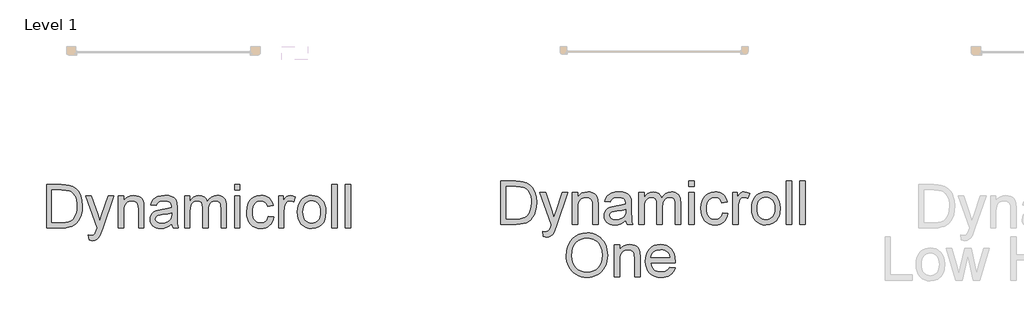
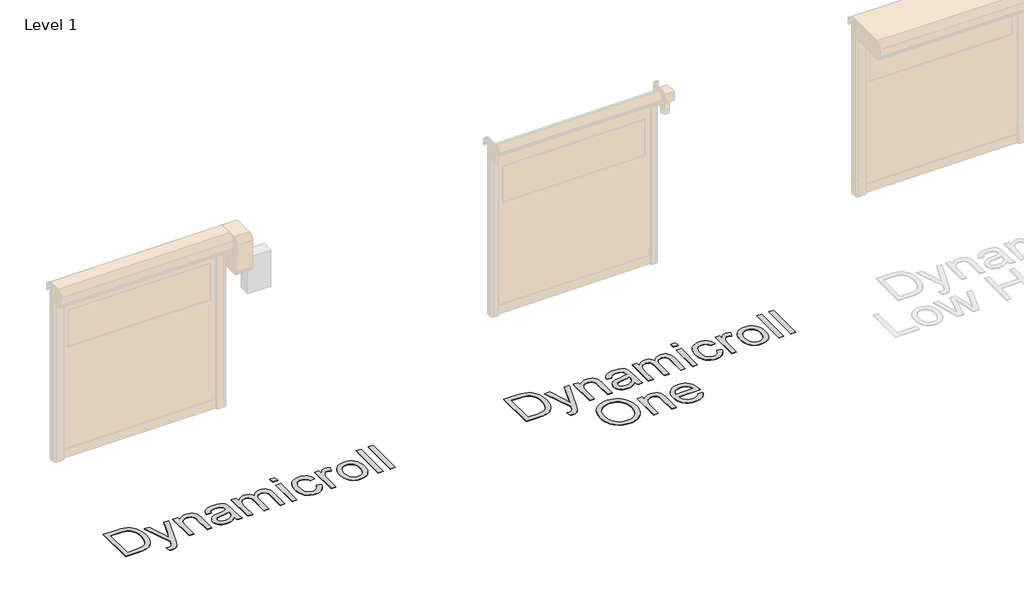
# One storey, part 13 of 18: 2 proxies.
"""IFC4 building model written with IfcOpenShell, lengths in millimetres."""

import ifcopenshell
import ifcopenshell.guid

model = None  # the IFC model being written
_history = None  # IfcOwnerHistory: only IFC2X3 demands one
_inside = {}  # id of a spatial element -> (the spatial element, [elements in it])
_under = {}  # id of a project, library or spatial element -> (it, [spatial elements below it])
_declared = {}  # id of a project -> (the project, [libraries it declares])
_typed = {}  # id of a type object -> (the type object, [elements of that type])
_made_of = {}  # id of a material, layer set ... -> (it, [elements and type objects made of it])


def new_model(schema):
    """Start an empty IFC model of exactly this schema.

    Asked for "IFC4X3", IfcOpenShell would pick the latest addendum, in which some entities
    have other attributes; the version numbers below select the first issue.
    IFC2X3 requires an IfcOwnerHistory on every rooted entity: one is made here for all.
    """
    global model, _history
    if schema == "IFC4X3":
        model = ifcopenshell.file(schema_version=(4, 3, 0, 0))
    else:
        model = ifcopenshell.file(schema=schema)
    _inside.clear()
    _under.clear()
    _declared.clear()
    _typed.clear()
    _made_of.clear()
    _history = None
    if model.schema == "IFC2X3":
        org = make("IfcOrganization", Name="unknown")
        user = make(
            "IfcPersonAndOrganization",
            ThePerson=make("IfcPerson", FamilyName="unknown"),
            TheOrganization=org,
        )
        app = make(
            "IfcApplication",
            ApplicationDeveloper=org,
            Version="unknown",
            ApplicationFullName="unknown",
            ApplicationIdentifier="unknown",
        )
        _history = make(
            "IfcOwnerHistory",
            OwningUser=user,
            OwningApplication=app,
            ChangeAction="ADDED",
            CreationDate=0,
        )
    return model


def make(cls, **values):
    """One entity of the class cls with the attributes given. An attribute that is None is left unset."""
    return model.create_entity(
        cls, **{name: value for name, value in values.items() if value is not None}
    )


def rooted(cls, **values):
    """An entity with a GlobalId (a new one), such as an element, a storey or a relation."""
    return make(cls, GlobalId=ifcopenshell.guid.new(), OwnerHistory=_history, **values)


def si_unit(unit_type, name, prefix=None):
    """IfcSIUnit, for example si_unit("LENGTHUNIT", "METRE", prefix="MILLI")."""
    return make("IfcSIUnit", UnitType=unit_type, Prefix=prefix, Name=name)


def assignment(units):
    """IfcUnitAssignment: the units of a project."""
    return None if units is None else make("IfcUnitAssignment", Units=units)


def point(xyz):
    """IfcCartesianPoint."""
    return None if xyz is None else make("IfcCartesianPoint", Coordinates=xyz)


def direction(xyz):
    """IfcDirection."""
    return None if xyz is None else make("IfcDirection", DirectionRatios=xyz)


def frame(location, z_axis=None, x_axis=None):
    """IfcAxis2Placement3D, a coordinate frame: its origin and axes. An axis left out is left unset."""
    return make(
        "IfcAxis2Placement3D",
        Location=point(location),
        Axis=direction(z_axis),
        RefDirection=direction(x_axis),
    )


def origin():
    """The frame at (0, 0, 0) with its axes left unset."""
    return frame((0.0, 0.0, 0.0))


def origin_with_axes():
    """The frame at (0, 0, 0) with the z axis (0, 0, 1) and the x axis (1, 0, 0) written out."""
    return frame((0.0, 0.0, 0.0), z_axis=(0.0, 0.0, 1.0), x_axis=(1.0, 0.0, 0.0))


def place(relative_to, where):
    """IfcLocalPlacement: puts the frame where relative to a parent placement (None: the world)."""
    return make(
        "IfcLocalPlacement", PlacementRelTo=relative_to, RelativePlacement=where
    )


def context(
    kind, dimensions, precision=None, world=None, true_north=None, identifier=None
):
    """IfcGeometricRepresentationContext, for example the 3D "Model" context."""
    return make(
        "IfcGeometricRepresentationContext",
        ContextIdentifier=identifier,
        ContextType=kind,
        CoordinateSpaceDimension=dimensions,
        Precision=precision,
        WorldCoordinateSystem=world,
        TrueNorth=true_north,
    )


def project(units=None, contexts=None):
    """IfcProject with its units and contexts."""
    return rooted(
        "IfcProject",
        Name="project",
        RepresentationContexts=contexts,
        UnitsInContext=assignment(units),
    )


def spatial(cls, under=None, at=None, **own):
    """A site, building, storey or space (cls), placed at a placement, below another one or the project."""
    s = rooted(cls, ObjectPlacement=at, **own)
    if under is not None:
        _under.setdefault(under.id(), (under, []))[1].append(s)
    return s


def polyline(points):
    """IfcPolyline through the points."""
    return make("IfcPolyline", Points=[point(p) for p in points])


def outline(outer, holes=None, kind="AREA"):
    """IfcArbitraryClosedProfileDef: a profile drawn as a closed curve; with holes, ...WithVoids."""
    if holes is None:
        return make("IfcArbitraryClosedProfileDef", ProfileType=kind, OuterCurve=outer)
    return make(
        "IfcArbitraryProfileDefWithVoids",
        ProfileType=kind,
        OuterCurve=outer,
        InnerCurves=holes,
    )


def extrude(swept, where, along, depth):
    """IfcExtrudedAreaSolid: the profile swept, set in the frame where, extruded along a direction by depth."""
    return make(
        "IfcExtrudedAreaSolid",
        SweptArea=swept,
        Position=where,
        ExtrudedDirection=direction(along),
        Depth=depth,
    )


def shape(context_of_items, identifier, shape_type, items):
    """IfcShapeRepresentation: the items that make up one representation, for example the "Body"."""
    return make(
        "IfcShapeRepresentation",
        ContextOfItems=context_of_items,
        RepresentationIdentifier=identifier,
        RepresentationType=shape_type,
        Items=items,
    )


def made_of(thing, what):
    """Note that an element or type object is made of a material, layer set ...; save() writes the relation."""
    if what is not None:
        _made_of.setdefault(what.id(), (what, []))[1].append(thing)
    return thing


def element(
    cls,
    number,
    at=None,
    inside=None,
    cuts=None,
    type_object=None,
    material=None,
    context=None,
    identifier="Body",
    shape_type=None,
    held_by="IfcProductDefinitionShape",
    body=None,
    shapes=None,
    **own,
):
    """One element of the class cls, such as IfcWall. Its Tag is "e" and its number.

    at: its placement. inside: the storey or other place that contains it. cuts: it is an
    opening in that element (IfcRelVoidsElement). A single representation is given by context,
    identifier, shape_type and body (its items); several are given by shapes. held_by: the class
    of the entity that holds the representations. save() writes the other relations.
    """
    e = rooted(cls, Tag="e%d" % number, ObjectPlacement=at, **own)
    if body is not None:
        shapes = [shape(context, identifier, shape_type, body)]
    if shapes is not None:
        e.Representation = make(held_by, Representations=shapes)
    if inside is not None:
        _inside.setdefault(inside.id(), (inside, []))[1].append(e)
    if cuts is not None:
        rooted(
            "IfcRelVoidsElement", RelatingBuildingElement=cuts, RelatedOpeningElement=e
        )
    if type_object is not None:
        _typed.setdefault(type_object.id(), (type_object, []))[1].append(e)
    return made_of(e, material)


def aggregate(whole, parts):
    """IfcRelAggregates: a whole, such as a stair, and the parts it consists of."""
    return rooted("IfcRelAggregates", RelatingObject=whole, RelatedObjects=parts)


def save(model, path):
    """Write the relations noted so far, then the file.

    IfcRelAggregates (storeys below a building ...), IfcRelContainedInSpatialStructure (elements
    in a storey), IfcRelDefinesByType, IfcRelAssociatesMaterial and IfcRelDeclares: one each for
    every whole, place, type object, material and project.
    """
    for whole, parts in _under.values():
        aggregate(whole, parts)
    for where, things in _inside.values():
        rooted(
            "IfcRelContainedInSpatialStructure",
            RelatedElements=things,
            RelatingStructure=where,
        )
    for kind, things in _typed.values():
        rooted("IfcRelDefinesByType", RelatedObjects=things, RelatingType=kind)
    for what, things in _made_of.values():
        rooted("IfcRelAssociatesMaterial", RelatedObjects=things, RelatingMaterial=what)
    for by, libraries in _declared.values():
        rooted("IfcRelDeclares", RelatingContext=by, RelatedDefinitions=libraries)
    model.write(path)


model = new_model("IFC4")

# Units and contexts
model_context = context("Model", 3, world=origin())
ifc_project = project(units=[si_unit("LENGTHUNIT", "METRE", prefix="MILLI")], contexts=[model_context])

# Site, building, storey
site = spatial("IfcSite", under=ifc_project)
building = spatial("IfcBuilding", under=site)
storey = spatial("IfcBuildingStorey", under=building, Name="Level 1", Elevation=0.0)

# Proxies
placement = place(None, origin())
element("IfcBuildingElementProxy", 1, Name="500mm", ObjectType="500mm", at=placement, inside=storey, context=model_context, shape_type="SweptSolid", body=[
    extrude(outline(polyline([(5402.5904997, 42632.3594673), (5402.5904997, 43134.6410181), (5575.8629195, 43134.6410181), (5627.6423103, 43132.832265), (5665.5034989, 43127.4060055), (5705.5413228, 43113.4571465), (5739.3251526, 43091.4761973), (5757.9415144, 43073.5112932), (5774.0593444, 43053.2164698), (5787.6786424, 43030.5917271), (5798.7994085, 43005.6370651), (5813.6066588, 42949.6576882), (5818.5424089, 42886.198044), (5815.2008142, 42832.2880033), (5805.1760298, 42784.8465543), (5789.908927, 42744.456177), (5770.8403769, 42711.699351), (5748.8900845, 42685.8403124), (5724.9777548, 42666.1432972), (5697.5245609, 42651.5353163), (5664.951676, 42640.9433806), (5627.1977862, 42634.5054457), (5584.201578, 42632.3594673), (5402.5904997, 42632.3594673)]), holes=[polyline([(5465.3756936, 42695.1446612), (5576.4760561, 42695.1446612), (5622.4306487, 42697.4132668), (5657.2874677, 42704.2190837), (5683.5910304, 42715.1635731), (5703.8858538, 42729.8481961), (5725.6981904, 42757.0254785), (5742.0842676, 42792.2041943), (5752.3389782, 42835.5376276), (5755.7572151, 42887.1790627), (5754.0825856, 42923.630037), (5749.0586971, 42955.6051138), (5740.6855496, 42983.1042929), (5728.9631431, 43006.1275744), (5714.8418394, 43025.1961245), (5699.2720004, 43040.8311093), (5682.253626, 43053.0325288), (5663.7867163, 43061.800383), (5627.6729671, 43069.341964), (5574.7592735, 43071.8558243), (5465.3756936, 43071.8558243), (5465.3756936, 42695.1446612)])]), origin_with_axes(), (0.0, 0.0, 1.0), 5.0),
    extrude(outline(polyline([(5897.0239012, 42491.0927812), (5889.175752, 42551.5480557), (5921.0588583, 42546.0298258), (5937.8281459, 42547.7619369), (5950.8572999, 42552.9582701), (5961.0047116, 42561.2509434), (5969.1287723, 42572.2720748), (5986.2965987, 42618.5025789), (5991.201692, 42633.708368), (5857.7831551, 43001.2224812), (5924.0019142, 43001.2224812), (5994.7578846, 42796.4348372), (6019.4059783, 42714.5197796), (6044.054072, 42786.8699053), (6116.7720797, 43001.2224812), (6182.5003295, 43001.2224812), (6054.1095132, 42623.5302995), (6020.754879, 42541.6152419), (6003.679023, 42515.4649634), (5984.3345614, 42497.3467751), (5961.8631029, 42486.7701678), (5935.4062561, 42483.244632), (5917.2267541, 42485.2066693), (5897.0239012, 42491.0927812)])), origin_with_axes(), (0.0, 0.0, 1.0), 5.0),
    extrude(outline(polyline([(6234.4943182, 42632.3594673), (6234.4943182, 43001.2224812), (6297.279512, 43001.2224812), (6297.279512, 42949.7190019), (6319.0918486, 42975.6853393), (6345.2881124, 42994.2327233), (6375.8683032, 43005.3611536), (6410.8324212, 43009.0706304), (6441.780494, 43006.0815892), (6470.1227361, 42997.1144656), (6493.7591543, 42983.2882339), (6510.5897555, 42965.7218686), (6522.0094258, 42944.461355), (6529.413051, 42919.5526782), (6532.7239889, 42858.852149), (6532.7239889, 42632.3594673), (6469.9387951, 42632.3594673), (6469.9387951, 42850.3908632), (6468.1300419, 42882.8564492), (6462.7037825, 42905.9410444), (6452.6943265, 42922.4804058), (6437.1359838, 42935.3102904), (6417.193714, 42943.54165), (6394.0324767, 42946.2854366), (6374.9677588, 42944.7449307), (6357.2596056, 42940.1234131), (6340.9080174, 42932.4208839), (6325.912994, 42921.6373429), (6313.3858456, 42906.5465169), (6304.4378825, 42885.9221325), (6299.0691046, 42859.7641898), (6297.279512, 42828.0726888), (6297.279512, 42632.3594673), (6234.4943182, 42632.3594673)])), origin_with_axes(), (0.0, 0.0, 1.0), 5.0),
    extrude(outline(polyline([(6854.4981074, 42679.4483627), (6824.5003963, 42653.7272799), (6793.6136372, 42636.8966786), (6761.1327227, 42627.6076582), (6726.3525457, 42624.5113181), (6698.3973462, 42626.3737207), (6673.8833761, 42631.9609285), (6652.8106356, 42641.2729415), (6635.1791246, 42654.3097597), (6621.2570903, 42670.2436486), (6611.3127801, 42688.2468738), (6605.346194, 42708.3194351), (6603.357332, 42730.4613327), (6606.3617016, 42756.4889839), (6615.3748105, 42780.1254021), (6629.2776842, 42800.3589118), (6646.9513484, 42816.1778376), (6667.7213527, 42828.1340024), (6690.9132468, 42836.7792293), (6745.2371548, 42846.2215339), (6809.432563, 42856.1543477), (6854.1302254, 42867.8039443), (6854.4981074, 42881.7834601), (6850.1754939, 42909.8038054), (6837.2076536, 42928.1365915), (6824.1325143, 42936.0767112), (6808.2062896, 42941.7482253), (6767.8005838, 42946.2854366), (6730.3992477, 42943.2657385), (6704.279626, 42934.2066444), (6686.4680061, 42917.4526852), (6673.9906751, 42891.348392), (6611.2054812, 42899.1965412), (6622.1039853, 42933.5321941), (6638.3674352, 42960.510207), (6661.5133441, 42981.1422556), (6693.0592251, 42996.4400152), (6731.6408494, 43005.9129766), (6775.8939877, 43009.0706304), (6818.3383729, 43006.2808586), (6851.9842471, 42997.9115432), (6877.3527763, 42985.3269133), (6894.9651268, 42969.8911979), (6906.6453802, 42950.8073194), (6914.2176179, 42927.2782001), (6917.2833012, 42872.3411555), (6917.2833012, 42794.2275452), (6920.4716118, 42685.1505337), (6925.1927641, 42658.1878491), (6932.9795997, 42632.3594673), (6870.1944058, 42632.3594673), (6860.1389646, 42654.1871324), (6854.4981074, 42679.4483627)]), holes=[polyline([(6854.4981074, 42805.0187504), (6812.3143052, 42794.5647704), (6753.2079314, 42785.7662593), (6699.1905917, 42775.5881908), (6685.1344338, 42768.6290897), (6674.7264391, 42759.033501), (6668.2885041, 42747.5371887), (6666.1425258, 42734.8759167), (6670.8176929, 42716.2059054), (6684.8431939, 42700.9081458), (6707.9124607, 42690.6994204), (6739.7189249, 42687.296512), (6773.4414411, 42691.051974), (6803.2398827, 42702.3183601), (6827.397467, 42718.9190351), (6844.1974115, 42738.677364), (6851.6470219, 42759.033501), (6854.1302254, 42787.2377873), (6854.4981074, 42805.0187504)])]), origin_with_axes(), (0.0, 0.0, 1.0), 5.0),
    extrude(outline(polyline([(7003.6129427, 42632.3594673), (7003.6129427, 43001.2224812), (7066.3981366, 43001.2224812), (7066.3981366, 42940.521952), (7085.2827457, 42968.4043415), (7109.5629574, 42990.247335), (7138.4110371, 43004.3648066), (7170.9992505, 43009.0706304), (7205.9173833, 43004.2728361), (7233.9070717, 42989.879453), (7254.8150318, 42966.840843), (7268.4879793, 42936.107368), (7291.373305, 42968.0287953), (7317.4775983, 42990.8298148), (7346.800859, 43004.5104265), (7379.3430871, 43009.0706304), (7404.477858, 43007.1737389), (7426.5392814, 43001.4830643), (7445.5273573, 42991.9986066), (7461.4420857, 42978.7203658), (7474.0228836, 42961.4950578), (7483.0091677, 42940.1693984), (7488.4009382, 42914.7433876), (7490.198195, 42885.2170254), (7490.198195, 42632.3594673), (7427.4130012, 42632.3594673), (7427.4130012, 42858.2390124), (7425.9568016, 42889.5549672), (7421.5882029, 42910.6621967), (7413.4028285, 42925.1168934), (7400.4963019, 42936.47525), (7383.8956268, 42943.8328899), (7364.6278073, 42946.2854366), (7346.8353479, 42944.7142739), (7330.6140512, 42940.0007858), (7315.9639172, 42932.1449724), (7302.8849458, 42921.1468336), (7292.1282296, 42906.6844726), (7284.4448608, 42888.4359928), (7279.8348396, 42866.4013942), (7278.2981658, 42840.5806766), (7278.2981658, 42632.3594673), (7215.512972, 42632.3594673), (7215.512972, 42865.2287703), (7211.8801373, 42900.7293828), (7200.9816332, 42926.0519268), (7192.5548362, 42934.9040873), (7181.8057842, 42941.2270591), (7153.3409148, 42946.2854366), (7129.1526736, 42942.9131849), (7106.8651561, 42932.7964301), (7088.4710563, 42916.1804266), (7075.9630685, 42893.3104293), (7068.7893696, 42861.5806072), (7066.3981366, 42818.3851296), (7066.3981366, 42632.3594673), (7003.6129427, 42632.3594673)])), origin_with_axes(), (0.0, 0.0, 1.0), 5.0),
    extrude(outline(polyline([(7584.3759858, 43071.8558243), (7584.3759858, 43134.6410181), (7647.1611796, 43134.6410181), (7647.1611796, 43071.8558243), (7584.3759858, 43071.8558243)])), origin_with_axes(), (0.0, 0.0, 1.0), 5.0),
    extrude(outline(polyline([(7584.3759858, 42632.3594673), (7584.3759858, 43001.2224812), (7647.1611796, 43001.2224812), (7647.1611796, 42632.3594673), (7584.3759858, 42632.3594673)])), origin_with_axes(), (0.0, 0.0, 1.0), 5.0),
    extrude(outline(polyline([(7976.7834473, 42765.7780043), (8039.5686412, 42757.929855), (8032.7398316, 42728.3038581), (8022.0635896, 42702.0884338), (8007.539915, 42679.2835823), (7989.1688078, 42659.8893033), (7967.7243532, 42644.4114348), (7943.9806361, 42633.3558144), (7917.9376565, 42626.7224422), (7889.5954145, 42624.5113181), (7854.3822097, 42627.5961619), (7822.8095039, 42636.8506934), (7794.877297, 42652.2749124), (7770.585589, 42673.8688191), (7750.9230628, 42701.2262104), (7736.8784012, 42733.9408833), (7728.4516043, 42772.0128377), (7725.6426719, 42815.4420736), (7730.4404663, 42871.3141516), (7744.8338494, 42919.7366192), (7755.6863682, 42940.6867325), (7769.0527474, 42958.8394096), (7784.9329868, 42974.1946508), (7803.3270866, 42986.752456), (7844.3306006, 43003.4910868), (7888.7370231, 43009.0706304), (7916.592588, 43007.1545783), (7941.7886725, 43001.4064222), (7964.3252768, 42991.8261619), (7984.2024009, 42978.4137975), (8001.0828195, 42961.4758973), (8014.6293076, 42941.3190296), (8024.841865, 42917.9431945), (8031.7204919, 42891.348392), (7968.9352981, 42883.5002427), (7957.5462846, 42910.8921229), (7939.8113068, 42930.5278244), (7916.7113832, 42942.3460335), (7889.2275325, 42946.2854366), (7867.8942088, 42944.3463919), (7848.6532141, 42938.5292578), (7831.5045482, 42928.8340344), (7816.4482111, 42915.2607216), (7804.18931, 42897.495087), (7795.4329521, 42875.2228978), (7790.1791374, 42848.4441543), (7788.4278658, 42817.1588563), (7790.1408163, 42785.4022094), (7795.2796679, 42758.3130654), (7803.8444206, 42735.8914243), (7815.8350744, 42718.1372859), (7830.5925074, 42704.6444473), (7847.4575976, 42695.0067054), (7866.4303451, 42689.2240603), (7887.5107498, 42687.296512), (7920.0223211, 42692.1096347), (7946.6784374, 42706.549003), (7957.4581463, 42717.4704998), (7966.0688842, 42730.9824989), (7976.7834473, 42765.7780043)])), origin_with_axes(), (0.0, 0.0, 1.0), 5.0),
    extrude(outline(polyline([(8094.5056858, 42632.3594673), (8094.5056858, 43001.2224812), (8149.4427304, 43001.2224812), (8149.4427304, 42946.6533186), (8169.7375538, 42978.2911701), (8188.4382219, 42996.9305246), (8207.2002036, 43006.0356039), (8227.678968, 43009.0706304), (8258.9489376, 43004.2268508), (8290.7094165, 42989.695512), (8269.7401428, 42933.4095667), (8247.6672231, 42943.0664691), (8225.5943034, 42946.2854366), (8206.84765, 42943.1890964), (8190.0936909, 42933.9000761), (8176.5586991, 42919.1234826), (8167.4689481, 42899.5644232), (8159.8353967, 42864.4930063), (8157.2908796, 42826.2332788), (8157.2908796, 42632.3594673), (8094.5056858, 42632.3594673)])), origin_with_axes(), (0.0, 0.0, 1.0), 5.0),
    extrude(outline(polyline([(8314.2538642, 42816.7909743), (8317.6491085, 42864.5619842), (8327.8348412, 42905.7264466), (8344.8110624, 42940.2843615), (8368.5777722, 42968.2357289), (8392.5054303, 42986.1009983), (8418.9162919, 42998.861905), (8447.8103569, 43006.5184491), (8479.1876254, 43009.0706304), (8513.8260145, 43005.962794), (8545.1458014, 42996.6392847), (8573.1469862, 42981.1001025), (8597.8295688, 42959.3452474), (8617.9749402, 42932.1104834), (8632.3644911, 42900.1315746), (8640.9982217, 42863.4085208), (8643.8761319, 42821.9413222), (8638.7870976, 42758.5123349), (8632.4258048, 42732.4770195), (8623.5199948, 42710.227823), (8612.1807988, 42691.0098208), (8598.5193476, 42674.0680885), (8582.5356413, 42659.4026261), (8564.2296799, 42647.0134335), (8523.5020774, 42630.136847), (8479.1876254, 42624.5113181), (8444.0433985, 42627.6076582), (8412.4323717, 42636.8966786), (8384.3545448, 42652.3783793), (8359.809918, 42674.0527601), (8339.8791444, 42701.5519393), (8325.6428777, 42734.5080347), (8317.1011176, 42772.9210463), (8314.2538642, 42816.7909743)]), holes=[polyline([(8377.0390581, 42816.9136016), (8378.8554754, 42786.4598702), (8384.3047275, 42760.0911618), (8393.3868142, 42737.8074763), (8406.1017357, 42719.6088139), (8421.5681079, 42705.4721818), (8438.9045469, 42695.3745874), (8458.1110528, 42689.3160308), (8479.1876254, 42687.296512), (8500.1568991, 42689.3275271), (8519.2867629, 42695.4205727), (8536.5772166, 42705.5756486), (8552.0282604, 42719.7927549), (8564.7431819, 42738.1715262), (8573.8252687, 42760.8115973), (8579.2745207, 42787.7129682), (8581.0909381, 42818.8756389), (8579.2630244, 42848.3636801), (8573.7792834, 42874.0426098), (8564.6397151, 42895.912428), (8551.8443194, 42913.9731347), (8536.3357941, 42928.1097667), (8519.0568366, 42938.2073611), (8500.0074471, 42944.2659177), (8479.1876254, 42946.2854366), (8458.1110528, 42944.2735819), (8438.9045469, 42938.2380179), (8421.5681079, 42928.1787446), (8406.1017357, 42914.095762), (8393.3868142, 42895.950749), (8384.3047275, 42873.7053846), (8378.8554754, 42847.3596688), (8377.0390581, 42816.9136016)])]), origin_with_axes(), (0.0, 0.0, 1.0), 5.0),
    extrude(outline(polyline([(8714.509475, 42632.3594673), (8714.509475, 43134.6410181), (8777.2946688, 43134.6410181), (8777.2946688, 42632.3594673), (8714.509475, 42632.3594673)])), origin_with_axes(), (0.0, 0.0, 1.0), 5.0),
    extrude(outline(polyline([(8871.4724596, 42632.3594673), (8871.4724596, 43134.6410181), (8934.2576534, 43134.6410181), (8934.2576534, 42632.3594673), (8871.4724596, 42632.3594673)])), origin_with_axes(), (0.0, 0.0, 1.0), 5.0),
    extrude(outline(polyline([(6163.8609751, 42267.0042776), (6168.0456328, 42325.9190463), (6180.5996059, 42378.0739833), (6201.5228943, 42423.4690887), (6230.8154982, 42462.1043624), (6266.7223138, 42492.9528005), (6307.4882374, 42514.9873992), (6353.113269, 42528.2081584), (6403.5974086, 42532.6150781), (6437.3889027, 42530.5457419), (6469.4789426, 42524.3377332), (6499.8675282, 42513.9910521), (6528.5546596, 42499.5056985), (6554.735595, 42481.3185324), (6577.6055923, 42459.8664136), (6597.1646517, 42435.149342), (6613.4127732, 42407.1673177), (6626.1813441, 42376.5564701), (6635.3017519, 42343.9529282), (6640.7739966, 42309.3566923), (6642.5980781, 42272.7677622), (6640.678194, 42235.695987), (6634.9185415, 42200.6322343), (6625.3191207, 42167.5765042), (6611.8799315, 42136.5287966), (6594.9190387, 42108.3091819), (6574.7545069, 42083.7377303), (6551.386336, 42062.8144418), (6524.814526, 42045.5393165), (6496.0852415, 42032.0196532), (6466.2446467, 42022.3627508), (6435.2927418, 42016.5686094), (6403.2295266, 42014.6372289), (6368.8478885, 42016.7717109), (6336.3363172, 42023.1751569), (6305.6948126, 42033.8475668), (6276.9233749, 42048.7889408), (6250.7730964, 42067.420631), (6227.9950696, 42089.1639897), (6208.5892943, 42114.019017), (6192.5557707, 42141.9857129), (6180.0017976, 42171.9412708), (6171.034674, 42202.7628842), (6165.6543998, 42234.4505531), (6163.8609751, 42267.0042776)]), holes=[polyline([(6226.6461689, 42266.3911409), (6229.7846622, 42224.766826), (6239.200142, 42187.8176781), (6254.8926084, 42155.5436973), (6276.8620613, 42127.9448834), (6303.5679949, 42105.8413069), (6333.4699033, 42090.0530379), (6366.5677865, 42080.5800765), (6402.8616446, 42077.4224227), (6439.7763036, 42080.6107334), (6473.2650614, 42090.1756652), (6503.3279182, 42106.1172184), (6529.9648739, 42128.4353927), (6551.7733785, 42156.6166864), (6567.3508817, 42190.1475974), (6576.6973836, 42229.0281258), (6579.8128843, 42273.2582715), (6574.4785954, 42328.8391096), (6558.4757286, 42376.8783668), (6546.5770453, 42397.7671663), (6532.2181512, 42416.1650982), (6515.3990462, 42432.0721624), (6496.1197304, 42445.4883589), (6474.978012, 42456.1377762), (6452.5716992, 42463.7445029), (6428.9007921, 42468.3085389), (6403.9652906, 42469.8298843), (6368.9321948, 42466.8983246), (6336.4282877, 42458.1036457), (6306.4535693, 42443.4458474), (6279.0080396, 42422.9249299), (6256.0997212, 42395.5522102), (6239.7366366, 42360.3390054), (6229.9187858, 42317.2853157), (6226.6461689, 42266.3911409)])]), origin_with_axes(), (0.0, 0.0, 1.0), 5.0),
    extrude(outline(polyline([(6721.0795704, 42022.4853781), (6721.0795704, 42391.348392), (6783.8647643, 42391.348392), (6783.8647643, 42339.8449126), (6805.6771009, 42365.8112501), (6831.8733647, 42384.358634), (6862.4535555, 42395.4870644), (6897.4176735, 42399.1965412), (6928.3657463, 42396.2075), (6956.7079884, 42387.2403763), (6980.3444065, 42373.4141447), (6997.1750078, 42355.8477794), (7008.5946781, 42334.5872658), (7015.9983032, 42309.678589), (7019.3092412, 42248.9780598), (7019.3092412, 42022.4853781), (6956.5240474, 42022.4853781), (6956.5240474, 42240.5167739), (6954.7152942, 42272.98236), (6949.2890348, 42296.0669552), (6939.2795788, 42312.6063166), (6923.7212361, 42325.4362011), (6903.7789663, 42333.6675608), (6880.617729, 42336.4113473), (6861.553011, 42334.8708415), (6843.8448579, 42330.2493239), (6827.4932697, 42322.5467946), (6812.4982462, 42311.7632537), (6799.9710979, 42296.6724277), (6791.0231348, 42276.0480433), (6785.6543569, 42249.8901006), (6783.8647643, 42218.1985996), (6783.8647643, 42022.4853781), (6721.0795704, 42022.4853781)])), origin_with_axes(), (0.0, 0.0, 1.0), 5.0),
    extrude(outline(polyline([(7363.8920433, 42132.3594673), (7425.4509639, 42124.5113181), (7416.0124914, 42099.8555602), (7403.2707452, 42078.1275299), (7387.2257253, 42059.3272271), (7367.8774316, 42043.4546518), (7345.4251336, 42030.8470293), (7320.0681007, 42021.8415846), (7291.8063328, 42016.4383178), (7260.63983, 42014.6372289), (7221.6826596, 42017.7450653), (7186.9714605, 42027.0685746), (7156.5062328, 42042.6077568), (7130.2869764, 42064.3626119), (7109.2027396, 42091.7276674), (7094.1425704, 42124.0974509), (7085.1064689, 42161.4719623), (7082.094435, 42203.8512017), (7085.1371257, 42247.6674802), (7094.2651977, 42286.2874255), (7109.4786511, 42319.7110376), (7130.7774857, 42347.9383165), (7156.9277642, 42370.3637898), (7186.695549, 42386.381985), (7220.0808401, 42395.9929021), (7257.0836374, 42399.1965412), (7292.8946504, 42396.0005663), (7325.2797623, 42386.4126418), (7354.2389731, 42370.4327677), (7379.7722828, 42348.0609439), (7400.6150971, 42319.8949786), (7415.5028216, 42286.5326802), (7424.4354563, 42247.9740485), (7427.4130012, 42204.2190837), (7427.0451192, 42187.296512), (7144.8796289, 42187.296512), (7148.5162957, 42162.2422152), (7155.7474762, 42140.2995871), (7166.5731703, 42121.4686274), (7180.9933781, 42105.7493364), (7198.2110219, 42093.3563116), (7217.429024, 42084.5041511), (7238.6473845, 42079.1928548), (7261.8661034, 42077.4224227), (7295.2820512, 42080.7027039), (7323.4250239, 42090.5435472), (7346.2950212, 42107.5580895), (7363.8920433, 42132.3594673)]), holes=[polyline([(7144.8796289, 42250.0817058), (7364.6278073, 42250.0817058), (7356.1358646, 42283.252399), (7339.4892043, 42306.9807877), (7322.3673631, 42319.8566576), (7302.8849458, 42329.0537074), (7281.0419524, 42334.5719374), (7256.8383828, 42336.4113473), (7214.5166249, 42330.5405638), (7196.1033646, 42323.2020844), (7179.5218501, 42312.9282133), (7165.6074801, 42300.1941313), (7155.1956532, 42285.4750194), (7148.2863694, 42268.7708776), (7144.8796289, 42250.0817058)])]), origin_with_axes(), (0.0, 0.0, 1.0), 5.0),
])
element("IfcBuildingElementProxy", 2, Name="500mm", ObjectType="500mm", at=placement, inside=storey, context=model_context, shape_type="SweptSolid", body=[
    extrude(outline(polyline([(132.2974666, 42591.1035648), (132.2974666, 43093.3851155), (305.5698863, 43093.3851155), (357.3492772, 43091.5763624), (395.2104658, 43086.150103), (435.2482896, 43072.201244), (469.0321195, 43050.2202948), (487.6484813, 43032.2553907), (503.7663112, 43011.9605673), (517.3856093, 42989.3358246), (528.5063754, 42964.3811626), (543.3136257, 42908.4017856), (548.2493758, 42844.9421415), (544.907781, 42791.0321008), (534.8829967, 42743.5906518), (519.6158939, 42703.2002744), (500.5473438, 42670.4434484), (478.5970514, 42644.5844098), (454.6847217, 42624.8873947), (427.2315278, 42610.2794138), (394.6586428, 42599.687478), (356.9047531, 42593.2495431), (313.9085449, 42591.1035648), (132.2974666, 42591.1035648)]), holes=[polyline([(195.0826604, 42653.8887586), (306.183023, 42653.8887586), (352.1376156, 42656.1573643), (386.9944346, 42662.9631812), (413.2979973, 42673.9076705), (433.5928207, 42688.5922935), (455.4051573, 42715.7695759), (471.7912345, 42750.9482917), (482.0459451, 42794.2817251), (485.464182, 42845.9231601), (483.7895525, 42882.3741345), (478.765664, 42914.3492112), (470.3925165, 42941.8483904), (458.67011, 42964.8716719), (444.5488063, 42983.940222), (428.9789673, 42999.5752068), (411.9605929, 43011.7766263), (393.4936832, 43020.5444805), (357.379934, 43028.0860614), (304.4662403, 43030.5999217), (195.0826604, 43030.5999217), (195.0826604, 42653.8887586)])]), origin_with_axes(), (0.0, 0.0, 1.0), 5.0),
    extrude(outline(polyline([(626.7308681, 42449.8368787), (618.8827189, 42510.2921532), (650.7658251, 42504.7739233), (667.5351128, 42506.5060343), (680.5642668, 42511.7023675), (690.7116785, 42519.9950408), (698.8357392, 42531.0161723), (716.0035656, 42577.2466763), (720.9086589, 42592.4524654), (587.490122, 42959.9665786), (653.7088811, 42959.9665786), (724.4648515, 42755.1789346), (749.1129452, 42673.2638771), (773.7610389, 42745.6140028), (846.4790466, 42959.9665786), (912.2072964, 42959.9665786), (783.8164801, 42582.2743969), (750.4618458, 42500.3593393), (733.3859899, 42474.2090608), (714.0415283, 42456.0908726), (691.5700698, 42445.5142652), (665.113223, 42441.9887294), (646.933721, 42443.9507667), (626.7308681, 42449.8368787)])), origin_with_axes(), (0.0, 0.0, 1.0), 5.0),
    extrude(outline(polyline([(964.201285, 42591.1035648), (964.201285, 42959.9665786), (1026.9864789, 42959.9665786), (1026.9864789, 42908.4630993), (1048.7988155, 42934.4294368), (1074.9950792, 42952.9768207), (1105.5752701, 42964.1052511), (1140.5393881, 42967.8147279), (1171.4874609, 42964.8256867), (1199.8297029, 42955.858563), (1223.4661211, 42942.0323314), (1240.2967224, 42924.4659661), (1251.7163927, 42903.2054525), (1259.1200178, 42878.2967757), (1262.4309558, 42817.5962465), (1262.4309558, 42591.1035648), (1199.6457619, 42591.1035648), (1199.6457619, 42809.1349606), (1197.8370088, 42841.6005467), (1192.4107494, 42864.6851419), (1182.4012934, 42881.2245032), (1166.8429507, 42894.0543878), (1146.9006809, 42902.2857475), (1123.7394436, 42905.029534), (1104.6747256, 42903.4890282), (1086.9665725, 42898.8675106), (1070.6149842, 42891.1649813), (1055.6199608, 42880.3814403), (1043.0928125, 42865.2906143), (1034.1448494, 42844.66623), (1028.7760715, 42818.5082873), (1026.9864789, 42786.8167862), (1026.9864789, 42591.1035648), (964.201285, 42591.1035648)])), origin_with_axes(), (0.0, 0.0, 1.0), 5.0),
    extrude(outline(polyline([(1584.2050742, 42638.1924602), (1554.2073632, 42612.4713774), (1523.320604, 42595.6407761), (1490.8396895, 42586.3517557), (1456.0595126, 42583.2554156), (1428.1043131, 42585.1178182), (1403.590343, 42590.705026), (1382.5176025, 42600.017039), (1364.8860914, 42613.0538572), (1350.9640572, 42628.9877461), (1341.019747, 42646.9909712), (1335.0531609, 42667.0635326), (1333.0642989, 42689.2054302), (1336.0686685, 42715.2330813), (1345.0817774, 42738.8694995), (1358.9846511, 42759.1030093), (1376.6583153, 42774.9219351), (1397.4283196, 42786.8780999), (1420.6202137, 42795.5233268), (1474.9441217, 42804.9656313), (1539.1395298, 42814.8984452), (1583.8371922, 42826.5480417), (1584.2050742, 42840.5275575), (1579.8824608, 42868.5479028), (1566.9146205, 42886.8806889), (1553.8394812, 42894.8208087), (1537.9132565, 42900.4923227), (1497.5075507, 42905.029534), (1460.1062145, 42902.009836), (1433.9865929, 42892.9507418), (1416.1749729, 42876.1967826), (1403.6976419, 42850.0924894), (1340.9124481, 42857.9406386), (1351.8109522, 42892.2762915), (1368.0744021, 42919.2543045), (1391.2203109, 42939.8863531), (1422.766192, 42955.1841127), (1461.3478163, 42964.6570741), (1505.6009546, 42967.8147279), (1548.0453398, 42965.0249561), (1581.6912139, 42956.6556407), (1607.0597432, 42944.0710108), (1624.6720937, 42928.6352954), (1636.3523471, 42909.5514169), (1643.9245848, 42886.0222976), (1646.9902681, 42831.085253), (1646.9902681, 42752.9716427), (1650.1785787, 42643.8946311), (1654.899731, 42616.9319465), (1662.6865665, 42591.1035648), (1599.9013727, 42591.1035648), (1589.8459315, 42612.9312298), (1584.2050742, 42638.1924602)]), holes=[polyline([(1584.2050742, 42763.7628479), (1542.0212721, 42753.3088678), (1482.9148982, 42744.5103568), (1428.8975586, 42734.3322883), (1414.8414007, 42727.3731872), (1404.4334059, 42717.7775985), (1397.995471, 42706.2812861), (1395.8494927, 42693.6200141), (1400.5246597, 42674.9500029), (1414.5501608, 42659.6522432), (1437.6194276, 42649.4435179), (1469.4258917, 42646.0406094), (1503.148408, 42649.7960714), (1532.9468496, 42661.0624575), (1557.1044339, 42677.6631326), (1573.9043784, 42697.4214614), (1581.3539888, 42717.7775985), (1583.8371922, 42745.9818848), (1584.2050742, 42763.7628479)])]), origin_with_axes(), (0.0, 0.0, 1.0), 5.0),
    extrude(outline(polyline([(1733.3199096, 42591.1035648), (1733.3199096, 42959.9665786), (1796.1051035, 42959.9665786), (1796.1051035, 42899.2660494), (1814.9897125, 42927.148439), (1839.2699242, 42948.9914324), (1868.118004, 42963.108904), (1900.7062174, 42967.8147279), (1935.6243501, 42963.0169335), (1963.6140386, 42948.6235504), (1984.5219987, 42925.5849405), (1998.1949461, 42894.8514655), (2021.0802719, 42926.7728928), (2047.1845652, 42949.5739123), (2076.5078259, 42963.254524), (2109.050054, 42967.8147279), (2134.1848249, 42965.9178363), (2156.2462483, 42960.2271617), (2175.2343242, 42950.742704), (2191.1490526, 42937.4644633), (2203.7298504, 42920.2391553), (2212.7161346, 42898.9134958), (2218.1079051, 42873.487485), (2219.9051619, 42843.9611228), (2219.9051619, 42591.1035648), (2157.1199681, 42591.1035648), (2157.1199681, 42816.9831098), (2155.6637685, 42848.2990647), (2151.2951698, 42869.4062942), (2143.1097954, 42883.8609909), (2130.2032687, 42895.2193475), (2113.6025937, 42902.5769874), (2094.3347742, 42905.029534), (2076.5423148, 42903.4583713), (2060.3210181, 42898.7448833), (2045.670884, 42890.8890698), (2032.5919127, 42879.890931), (2021.8351964, 42865.4285701), (2014.1518277, 42847.1800903), (2009.5418064, 42825.1454916), (2008.0051327, 42799.3247741), (2008.0051327, 42591.1035648), (1945.2199388, 42591.1035648), (1945.2199388, 42823.9728677), (1941.5871041, 42859.4734803), (1930.6886, 42884.7960243), (1922.2618031, 42893.6481848), (1911.512751, 42899.9711566), (1883.0478817, 42905.029534), (1858.8596405, 42901.6572824), (1836.5721229, 42891.5405275), (1818.1780232, 42874.9245241), (1805.6700353, 42852.0545267), (1798.4963364, 42820.3247046), (1796.1051035, 42777.129227), (1796.1051035, 42591.1035648), (1733.3199096, 42591.1035648)])), origin_with_axes(), (0.0, 0.0, 1.0), 5.0),
    extrude(outline(polyline([(2314.0829527, 43030.5999217), (2314.0829527, 43093.3851155), (2376.8681465, 43093.3851155), (2376.8681465, 43030.5999217), (2314.0829527, 43030.5999217)])), origin_with_axes(), (0.0, 0.0, 1.0), 5.0),
    extrude(outline(polyline([(2314.0829527, 42591.1035648), (2314.0829527, 42959.9665786), (2376.8681465, 42959.9665786), (2376.8681465, 42591.1035648), (2314.0829527, 42591.1035648)])), origin_with_axes(), (0.0, 0.0, 1.0), 5.0),
    extrude(outline(polyline([(2706.4904142, 42724.5221017), (2769.275608, 42716.6739525), (2762.4467985, 42687.0479556), (2751.7705564, 42660.8325313), (2737.2468818, 42638.0276797), (2718.8757747, 42618.6334008), (2697.4313201, 42603.1555322), (2673.687603, 42592.0999119), (2647.6446234, 42585.4665396), (2619.3023813, 42583.2554156), (2584.0891766, 42586.3402594), (2552.5164708, 42595.5947908), (2524.5842639, 42611.0190099), (2500.2925559, 42632.6129166), (2480.6300297, 42659.9703079), (2466.5853681, 42692.6849807), (2458.1585711, 42730.7569351), (2455.3496388, 42774.1861711), (2460.1474332, 42830.0582491), (2474.5408162, 42878.4807167), (2485.3933351, 42899.4308299), (2498.7597142, 42917.5835071), (2514.6399537, 42932.9387483), (2533.0340535, 42945.4965535), (2574.0375675, 42962.2351843), (2618.44399, 42967.8147279), (2646.2995548, 42965.8986758), (2671.4956394, 42960.1505196), (2694.0322437, 42950.5702593), (2713.9093678, 42937.1578949), (2730.7897864, 42920.2199947), (2744.3362744, 42900.0631271), (2754.5488319, 42876.687292), (2761.4274588, 42850.0924894), (2698.642265, 42842.2443402), (2687.2532515, 42869.6362204), (2669.5182737, 42889.2719219), (2646.4183501, 42901.090131), (2618.9344993, 42905.029534), (2597.6011757, 42903.0904893), (2578.360181, 42897.2733553), (2561.211515, 42887.5781319), (2546.155178, 42874.0048191), (2533.8962769, 42856.2391844), (2525.139919, 42833.9669953), (2519.8861042, 42807.1882517), (2518.1348327, 42775.9029537), (2519.8477832, 42744.1463069), (2524.9866348, 42717.0571629), (2533.5513875, 42694.6355217), (2545.5420413, 42676.8813833), (2560.2994743, 42663.3885447), (2577.1645645, 42653.7508029), (2596.1373119, 42647.9681578), (2617.2177167, 42646.0406094), (2649.729288, 42650.8537322), (2676.3854043, 42665.2931005), (2687.1651131, 42676.2145972), (2695.7758511, 42689.7265963), (2706.4904142, 42724.5221017)])), origin_with_axes(), (0.0, 0.0, 1.0), 5.0),
    extrude(outline(polyline([(2824.2126526, 42591.1035648), (2824.2126526, 42959.9665786), (2879.1496973, 42959.9665786), (2879.1496973, 42905.397416), (2899.4445207, 42937.0352676), (2918.1451887, 42955.674622), (2936.9071705, 42964.7797014), (2957.3859349, 42967.8147279), (2988.6559045, 42962.9709483), (3020.4163834, 42948.4396094), (2999.4471097, 42892.1536642), (2977.37419, 42901.8105666), (2955.3012703, 42905.029534), (2936.5546169, 42901.9331939), (2919.8006577, 42892.6441735), (2906.265666, 42877.86758), (2897.175915, 42858.3085206), (2889.5423636, 42823.2371038), (2886.9978465, 42784.9773763), (2886.9978465, 42591.1035648), (2824.2126526, 42591.1035648)])), origin_with_axes(), (0.0, 0.0, 1.0), 5.0),
    extrude(outline(polyline([(3043.9608311, 42775.5350717), (3047.3560753, 42823.3060816), (3057.5418081, 42864.470544), (3074.5180293, 42899.028459), (3098.2847391, 42926.9798264), (3122.2123972, 42944.8450958), (3148.6232587, 42957.6060025), (3177.5173238, 42965.2625465), (3208.8945923, 42967.8147279), (3243.5329814, 42964.7068914), (3274.8527683, 42955.3833821), (3302.8539531, 42939.8441999), (3327.5365357, 42918.0893448), (3347.6819071, 42890.8545809), (3362.071458, 42858.875672), (3370.7051886, 42822.1526183), (3373.5830988, 42780.6854196), (3368.4940645, 42717.2564323), (3362.1327717, 42691.2211169), (3353.2269617, 42668.9719204), (3341.8877656, 42649.7539183), (3328.2263145, 42632.812186), (3312.2426082, 42618.1467235), (3293.9366468, 42605.7575309), (3253.2090443, 42588.8809444), (3208.8945923, 42583.2554156), (3173.7503654, 42586.3517557), (3142.1393386, 42595.6407761), (3114.0615117, 42611.1224767), (3089.5168848, 42632.7968576), (3069.5861113, 42660.2960367), (3055.3498445, 42693.2521321), (3046.8080845, 42731.6651438), (3043.9608311, 42775.5350717)]), holes=[polyline([(3106.7460249, 42775.657699), (3108.5624423, 42745.2039676), (3114.0116943, 42718.8352592), (3123.0937811, 42696.5515738), (3135.8087026, 42678.3529113), (3151.2750748, 42664.2162792), (3168.6115138, 42654.1186849), (3187.8180196, 42648.0601283), (3208.8945923, 42646.0406094), (3229.863866, 42648.0716246), (3248.9937297, 42654.1646701), (3266.2841835, 42664.319746), (3281.7352273, 42678.5368523), (3294.4501488, 42696.9156237), (3303.5322355, 42719.5556948), (3308.9814876, 42746.4570657), (3310.7979049, 42777.6197364), (3308.9699913, 42807.1077775), (3303.4862503, 42832.7867072), (3294.346682, 42854.6565254), (3281.5512863, 42872.7172321), (3266.042761, 42886.8538642), (3248.7638035, 42896.9514585), (3229.7144139, 42903.0100151), (3208.8945923, 42905.029534), (3187.8180196, 42903.0176794), (3168.6115138, 42896.9821154), (3151.2750748, 42886.9228421), (3135.8087026, 42872.8398594), (3123.0937811, 42854.6948464), (3114.0116943, 42832.4494821), (3108.5624423, 42806.1037663), (3106.7460249, 42775.657699)])]), origin_with_axes(), (0.0, 0.0, 1.0), 5.0),
    extrude(outline(polyline([(3444.2164419, 42591.1035648), (3444.2164419, 43093.3851155), (3507.0016357, 43093.3851155), (3507.0016357, 42591.1035648), (3444.2164419, 42591.1035648)])), origin_with_axes(), (0.0, 0.0, 1.0), 5.0),
    extrude(outline(polyline([(3601.1794265, 42591.1035648), (3601.1794265, 43093.3851155), (3663.9646203, 43093.3851155), (3663.9646203, 42591.1035648), (3601.1794265, 42591.1035648)])), origin_with_axes(), (0.0, 0.0, 1.0), 5.0),
])

save(model, "model.ifc")
